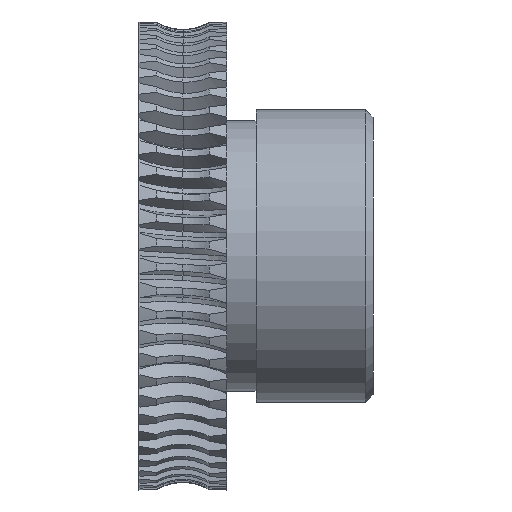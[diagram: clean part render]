
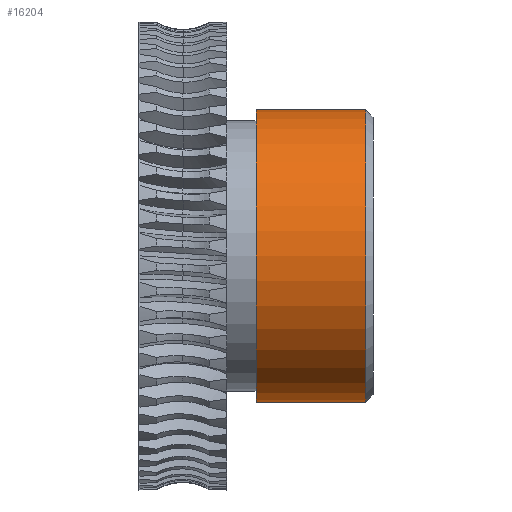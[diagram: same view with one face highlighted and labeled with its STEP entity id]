
A CAD part, front view. The second image highlights one B-rep face of the part: STEP entity #16204.
In plain terms, the highlighted cylindrical face has radius 10 mm (diameter 20 mm), a partial arc.
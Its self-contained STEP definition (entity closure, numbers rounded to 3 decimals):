
#1563 = ORIENTED_EDGE ( 'NONE', *, *, #19286, .T. ) ;
#1820 = AXIS2_PLACEMENT_3D ( 'NONE', #17192, #1991, #18861 ) ;
#1991 = DIRECTION ( 'NONE',  ( -1., 0., 0. ) ) ;
#2196 = FACE_OUTER_BOUND ( 'NONE', #19663, .T. ) ;
#2712 = CARTESIAN_POINT ( 'NONE',  ( 0., 0., -10. ) ) ;
#2783 = AXIS2_PLACEMENT_3D ( 'NONE', #14980, #17975, #15170 ) ;
#4100 = ORIENTED_EDGE ( 'NONE', *, *, #11368, .T. ) ;
#4277 = CARTESIAN_POINT ( 'NONE',  ( 15.5, 0., -10. ) ) ;
#4922 = DIRECTION ( 'NONE',  ( -1., 0., 0. ) ) ;
#6290 = VECTOR ( 'NONE', #11694, 1000. ) ;
#8702 = EDGE_CURVE ( 'NONE', #14377, #16474, #9099, .T. ) ;
#9099 = CIRCLE ( 'NONE', #15792, 10. ) ;
#9719 = CARTESIAN_POINT ( 'NONE',  ( 8., 0., -10. ) ) ;
#10457 = ORIENTED_EDGE ( 'NONE', *, *, #16015, .F. ) ;
#11116 = DIRECTION ( 'NONE',  ( 0., 0., 1. ) ) ;
#11345 = VECTOR ( 'NONE', #14165, 1000. ) ;
#11368 = EDGE_CURVE ( 'NONE', #13683, #18214, #16802, .T. ) ;
#11694 = DIRECTION ( 'NONE',  ( -1., 0., 0. ) ) ;
#12671 = LINE ( 'NONE', #18637, #11345 ) ;
#12789 = CYLINDRICAL_SURFACE ( 'NONE', #1820, 10. ) ;
#13683 = VERTEX_POINT ( 'NONE', #4277 ) ;
#13931 = CARTESIAN_POINT ( 'NONE',  ( 8., 0., 0. ) ) ;
#14165 = DIRECTION ( 'NONE',  ( -1., 0., 0. ) ) ;
#14266 = CARTESIAN_POINT ( 'NONE',  ( 15.5, 0., 10. ) ) ;
#14377 = VERTEX_POINT ( 'NONE', #9719 ) ;
#14980 = CARTESIAN_POINT ( 'NONE',  ( 15.5, 0., 0. ) ) ;
#15170 = DIRECTION ( 'NONE',  ( 0., 0., 1. ) ) ;
#15792 = AXIS2_PLACEMENT_3D ( 'NONE', #13931, #4922, #11116 ) ;
#16015 = EDGE_CURVE ( 'NONE', #13683, #14377, #16585, .T. ) ;
#16204 = ADVANCED_FACE ( 'NONE', ( #2196 ), #12789, .T. ) ;
#16375 = CARTESIAN_POINT ( 'NONE',  ( 8., 0., 10. ) ) ;
#16474 = VERTEX_POINT ( 'NONE', #16375 ) ;
#16585 = LINE ( 'NONE', #2712, #6290 ) ;
#16802 = CIRCLE ( 'NONE', #2783, 10. ) ;
#17192 = CARTESIAN_POINT ( 'NONE',  ( 0., 0., 0. ) ) ;
#17975 = DIRECTION ( 'NONE',  ( -1., 0., 0. ) ) ;
#18214 = VERTEX_POINT ( 'NONE', #14266 ) ;
#18459 = ORIENTED_EDGE ( 'NONE', *, *, #8702, .F. ) ;
#18637 = CARTESIAN_POINT ( 'NONE',  ( 0., 0., 10. ) ) ;
#18861 = DIRECTION ( 'NONE',  ( 0., 0., 1. ) ) ;
#19286 = EDGE_CURVE ( 'NONE', #18214, #16474, #12671, .T. ) ;
#19663 = EDGE_LOOP ( 'NONE', ( #10457, #4100, #1563, #18459 ) ) ;
